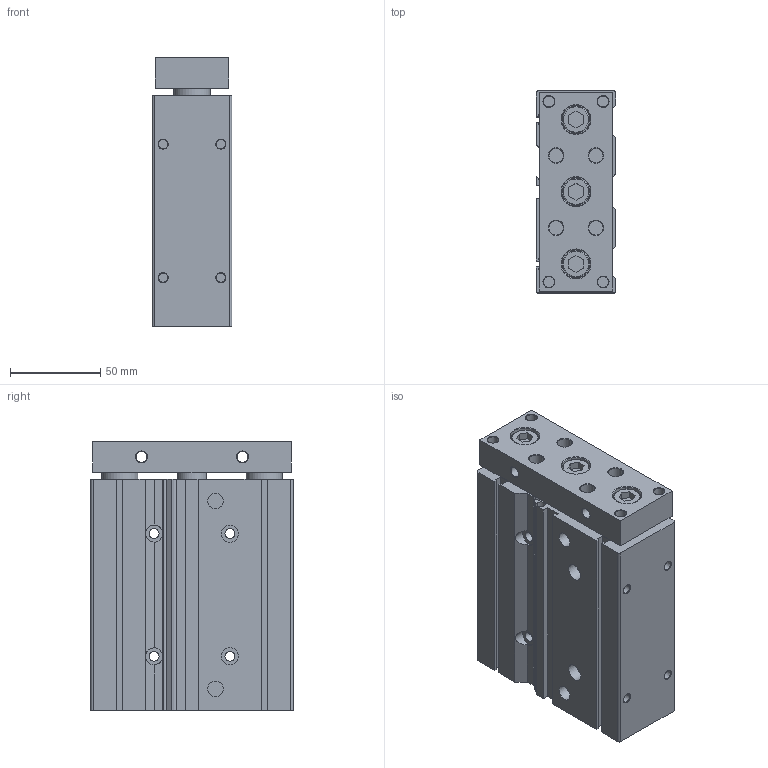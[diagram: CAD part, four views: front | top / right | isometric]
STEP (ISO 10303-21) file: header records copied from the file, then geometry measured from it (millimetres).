
FILE_DESCRIPTION((''),'2;1');
FILE_NAME('Z:\3D電子目錄\氣缸\TB(U)\TB(U)32\TB(U)32\TB32x75.stp','2011-09-22T10:55:55',('admin'),(''),'Autodesk Inventor 2012','Autodesk Inventor 2012','');
FILE_SCHEMA(('AUTOMOTIVE_DESIGN { 1 0 10303 214 1 1 1 1 }'));
Length unit declared in the file: millimetre
Products named in the file (1): TB32X75
Bounding box: 44 x 112 x 149 mm (x, y, z)
Volume: 652714.6 mm3; surface area: 82642.2 mm2
Topology: 1 solids, 1 shells, 206 faces, 462 edges, 294 vertices
Faces by surface type: plane 110, cylinder 56, cone 37, torus 3
Full cylindrical faces by diameter (mm): 5 x8, 5.5 x4, 6 x10, 8 x4, 8.5 x2, 9.5 x8, 15 x3, 16 x4, 20 x4, 28 x2, 34 x1
Entity records: 5348 total; most frequent: DIRECTION 944, CARTESIAN_POINT 873, ORIENTED_EDGE 744, EDGE_CURVE 372, AXIS2_PLACEMENT_3D 365, EDGE_LOOP 364, VERTEX_POINT 294, VECTOR 214
